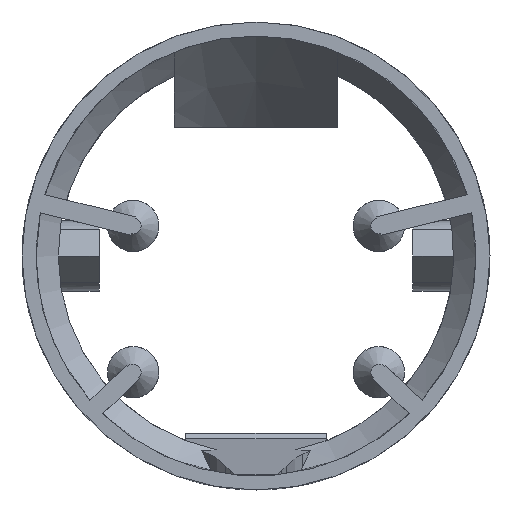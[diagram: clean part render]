
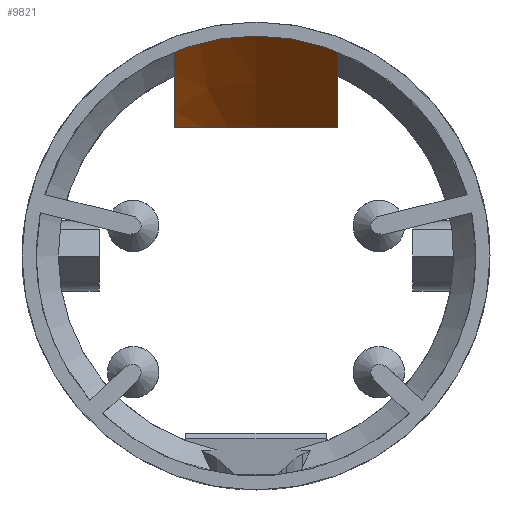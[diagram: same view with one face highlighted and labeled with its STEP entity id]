
A CAD part, left-side view. The second image highlights one B-rep face of the part: STEP entity #9821.
In plain terms, the highlighted conical face has half-angle 40 degrees and reference radius 18.8 mm.
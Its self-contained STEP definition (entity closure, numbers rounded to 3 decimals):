
#1301 = CYLINDRICAL_SURFACE('',#1302,18.8);
#1302 = AXIS2_PLACEMENT_3D('',#1303,#1304,#1305);
#1303 = CARTESIAN_POINT('',(29.,0.,0.));
#1304 = DIRECTION('',(1.,0.,0.));
#1305 = DIRECTION('',(-0.,0.,1.));
#4364 = VERTEX_POINT('',#4365);
#4365 = CARTESIAN_POINT('',(38.204,0.,18.8));
#4386 = EDGE_CURVE('',#4387,#4364,#4389,.T.);
#4387 = VERTEX_POINT('',#4388);
#4388 = CARTESIAN_POINT('',(38.204,7.,17.448));
#4389 = SURFACE_CURVE('',#4390,(#4395,#4402),.PCURVE_S1.);
#4390 = CIRCLE('',#4391,18.8);
#4391 = AXIS2_PLACEMENT_3D('',#4392,#4393,#4394);
#4392 = CARTESIAN_POINT('',(38.204,0.,0.));
#4393 = DIRECTION('',(1.,0.,0.));
#4394 = DIRECTION('',(-0.,1.,0.));
#4395 = PCURVE('',#1301,#4396);
#4396 = DEFINITIONAL_REPRESENTATION('',(#4397),#4401);
#4397 = LINE('',#4398,#4399);
#4398 = CARTESIAN_POINT('',(4.712,9.204));
#4399 = VECTOR('',#4400,1.);
#4400 = DIRECTION('',(1.,0.));
#4401 = ( GEOMETRIC_REPRESENTATION_CONTEXT(2) 
PARAMETRIC_REPRESENTATION_CONTEXT() REPRESENTATION_CONTEXT('2D SPACE',''
  ) );
#4402 = PCURVE('',#4403,#4408);
#4403 = CONICAL_SURFACE('',#4404,18.8,0.698);
#4404 = AXIS2_PLACEMENT_3D('',#4405,#4406,#4407);
#4405 = CARTESIAN_POINT('',(38.204,0.,0.));
#4406 = DIRECTION('',(-1.,-0.,-0.));
#4407 = DIRECTION('',(-0.,1.,0.));
#4408 = DEFINITIONAL_REPRESENTATION('',(#4409),#4413);
#4409 = LINE('',#4410,#4411);
#4410 = CARTESIAN_POINT('',(-0.,-0.));
#4411 = VECTOR('',#4412,1.);
#4412 = DIRECTION('',(-1.,-0.));
#4413 = ( GEOMETRIC_REPRESENTATION_CONTEXT(2) 
PARAMETRIC_REPRESENTATION_CONTEXT() REPRESENTATION_CONTEXT('2D SPACE',''
  ) );
#4430 = PLANE('',#4431);
#4431 = AXIS2_PLACEMENT_3D('',#4432,#4433,#4434);
#4432 = CARTESIAN_POINT('',(37.204,7.,11.));
#4433 = DIRECTION('',(-0.,1.,0.));
#4434 = DIRECTION('',(0.,0.,1.));
#5097 = VERTEX_POINT('',#5098);
#5098 = CARTESIAN_POINT('',(38.204,-7.,17.448));
#5111 = PLANE('',#5112);
#5112 = AXIS2_PLACEMENT_3D('',#5113,#5114,#5115);
#5113 = CARTESIAN_POINT('',(37.204,-7.,11.));
#5114 = DIRECTION('',(-0.,1.,0.));
#5115 = DIRECTION('',(0.,0.,1.));
#5122 = EDGE_CURVE('',#4364,#5097,#5123,.T.);
#5123 = SURFACE_CURVE('',#5124,(#5129,#5136),.PCURVE_S1.);
#5124 = CIRCLE('',#5125,18.8);
#5125 = AXIS2_PLACEMENT_3D('',#5126,#5127,#5128);
#5126 = CARTESIAN_POINT('',(38.204,0.,0.));
#5127 = DIRECTION('',(1.,0.,0.));
#5128 = DIRECTION('',(-0.,1.,0.));
#5129 = PCURVE('',#1301,#5130);
#5130 = DEFINITIONAL_REPRESENTATION('',(#5131),#5135);
#5131 = LINE('',#5132,#5133);
#5132 = CARTESIAN_POINT('',(-1.571,9.204));
#5133 = VECTOR('',#5134,1.);
#5134 = DIRECTION('',(1.,0.));
#5135 = ( GEOMETRIC_REPRESENTATION_CONTEXT(2) 
PARAMETRIC_REPRESENTATION_CONTEXT() REPRESENTATION_CONTEXT('2D SPACE',''
  ) );
#5136 = PCURVE('',#4403,#5137);
#5137 = DEFINITIONAL_REPRESENTATION('',(#5138),#5142);
#5138 = LINE('',#5139,#5140);
#5139 = CARTESIAN_POINT('',(-0.,-0.));
#5140 = VECTOR('',#5141,1.);
#5141 = DIRECTION('',(-1.,-0.));
#5142 = ( GEOMETRIC_REPRESENTATION_CONTEXT(2) 
PARAMETRIC_REPRESENTATION_CONTEXT() REPRESENTATION_CONTEXT('2D SPACE',''
  ) );
#5164 = VERTEX_POINT('',#5165);
#5165 = CARTESIAN_POINT('',(45.071,-7.,11.));
#5181 = PLANE('',#5182);
#5182 = AXIS2_PLACEMENT_3D('',#5183,#5184,#5185);
#5183 = CARTESIAN_POINT('',(37.204,-7.,11.));
#5184 = DIRECTION('',(0.,0.,1.));
#5185 = DIRECTION('',(1.,0.,-0.));
#5193 = EDGE_CURVE('',#5164,#5097,#5194,.T.);
#5194 = SURFACE_CURVE('',#5195,(#5200,#5207),.PCURVE_S1.);
#5195 = HYPERBOLA('',#5196,8.342,7.);
#5196 = AXIS2_PLACEMENT_3D('',#5197,#5198,#5199);
#5197 = CARTESIAN_POINT('',(60.609,-7.,0.));
#5198 = DIRECTION('',(0.,1.,0.));
#5199 = DIRECTION('',(-1.,0.,-0.));
#5200 = PCURVE('',#5111,#5201);
#5201 = DEFINITIONAL_REPRESENTATION('',(#5202),#5206);
#5202 = ( BOUNDED_CURVE() B_SPLINE_CURVE(2,(#5203,#5204,#5205),
.UNSPECIFIED.,.F.,.F.) B_SPLINE_CURVE_WITH_KNOTS((3,3),(1.154,
1.644),.PIECEWISE_BEZIER_KNOTS.) CURVE() 
GEOMETRIC_REPRESENTATION_ITEM() RATIONAL_B_SPLINE_CURVE((1.,
1.03,1.)) REPRESENTATION_ITEM('') );
#5203 = CARTESIAN_POINT('',(-1.,8.858));
#5204 = CARTESIAN_POINT('',(1.932,5.995));
#5205 = CARTESIAN_POINT('',(6.448,1.));
#5206 = ( GEOMETRIC_REPRESENTATION_CONTEXT(2) 
PARAMETRIC_REPRESENTATION_CONTEXT() REPRESENTATION_CONTEXT('2D SPACE',''
  ) );
#5207 = PCURVE('',#4403,#5208);
#5208 = DEFINITIONAL_REPRESENTATION('',(#5209),#5217);
#5209 = B_SPLINE_CURVE_WITH_KNOTS('',6,(#5210,#5211,#5212,#5213,#5214,
    #5215,#5216),.UNSPECIFIED.,.F.,.F.,(7,7),(1.154,
    1.644),.PIECEWISE_BEZIER_KNOTS.);
#5210 = CARTESIAN_POINT('',(-2.182,-7.858));
#5211 = CARTESIAN_POINT('',(-2.135,-6.884));
#5212 = CARTESIAN_POINT('',(-2.092,-5.795));
#5213 = CARTESIAN_POINT('',(-2.052,-4.577));
#5214 = CARTESIAN_POINT('',(-2.016,-3.217));
#5215 = CARTESIAN_POINT('',(-1.983,-1.698));
#5216 = CARTESIAN_POINT('',(-1.952,0.));
#5217 = ( GEOMETRIC_REPRESENTATION_CONTEXT(2) 
PARAMETRIC_REPRESENTATION_CONTEXT() REPRESENTATION_CONTEXT('2D SPACE',''
  ) );
#9398 = VERTEX_POINT('',#9399);
#9399 = CARTESIAN_POINT('',(45.071,7.,11.));
#9420 = EDGE_CURVE('',#9398,#9421,#9423,.T.);
#9421 = VERTEX_POINT('',#9422);
#9422 = CARTESIAN_POINT('',(47.5,0.,11.));
#9423 = SURFACE_CURVE('',#9424,(#9429,#9436),.PCURVE_S1.);
#9424 = HYPERBOLA('',#9425,13.109,11.);
#9425 = AXIS2_PLACEMENT_3D('',#9426,#9427,#9428);
#9426 = CARTESIAN_POINT('',(60.609,0.,11.));
#9427 = DIRECTION('',(0.,0.,1.));
#9428 = DIRECTION('',(-1.,0.,0.));
#9429 = PCURVE('',#5181,#9430);
#9430 = DEFINITIONAL_REPRESENTATION('',(#9431),#9435);
#9431 = ( BOUNDED_CURVE() B_SPLINE_CURVE(2,(#9432,#9433,#9434),
.UNSPECIFIED.,.F.,.F.) B_SPLINE_CURVE_WITH_KNOTS((3,3),(-0.704,
0.),.PIECEWISE_BEZIER_KNOTS.) CURVE() 
GEOMETRIC_REPRESENTATION_ITEM() RATIONAL_B_SPLINE_CURVE((1.,
1.063,1.)) REPRESENTATION_ITEM('') );
#9432 = CARTESIAN_POINT('',(6.91,15.4));
#9433 = CARTESIAN_POINT('',(10.296,10.72));
#9434 = CARTESIAN_POINT('',(10.296,7.));
#9435 = ( GEOMETRIC_REPRESENTATION_CONTEXT(2) 
PARAMETRIC_REPRESENTATION_CONTEXT() REPRESENTATION_CONTEXT('2D SPACE',''
  ) );
#9436 = PCURVE('',#4403,#9437);
#9437 = DEFINITIONAL_REPRESENTATION('',(#9438),#9446);
#9438 = B_SPLINE_CURVE_WITH_KNOTS('',6,(#9439,#9440,#9441,#9442,#9443,
    #9444,#9445),.UNSPECIFIED.,.F.,.F.,(7,7),(-0.704,
    0.),.PIECEWISE_BEZIER_KNOTS.);
#9439 = CARTESIAN_POINT('',(-0.919,-5.91));
#9440 = CARTESIAN_POINT('',(-1.012,-7.085));
#9441 = CARTESIAN_POINT('',(-1.113,-7.987));
#9442 = CARTESIAN_POINT('',(-1.222,-8.646));
#9443 = CARTESIAN_POINT('',(-1.336,-9.079));
#9444 = CARTESIAN_POINT('',(-1.453,-9.296));
#9445 = CARTESIAN_POINT('',(-1.571,-9.296));
#9446 = ( GEOMETRIC_REPRESENTATION_CONTEXT(2) 
PARAMETRIC_REPRESENTATION_CONTEXT() REPRESENTATION_CONTEXT('2D SPACE',''
  ) );
#9448 = EDGE_CURVE('',#9421,#5164,#9449,.T.);
#9449 = SURFACE_CURVE('',#9450,(#9455,#9462),.PCURVE_S1.);
#9450 = HYPERBOLA('',#9451,13.109,11.);
#9451 = AXIS2_PLACEMENT_3D('',#9452,#9453,#9454);
#9452 = CARTESIAN_POINT('',(60.609,0.,11.));
#9453 = DIRECTION('',(0.,0.,1.));
#9454 = DIRECTION('',(-1.,0.,0.));
#9455 = PCURVE('',#5181,#9456);
#9456 = DEFINITIONAL_REPRESENTATION('',(#9457),#9461);
#9457 = ( BOUNDED_CURVE() B_SPLINE_CURVE(2,(#9458,#9459,#9460),
.UNSPECIFIED.,.F.,.F.) B_SPLINE_CURVE_WITH_KNOTS((3,3),(
0.,0.704),.PIECEWISE_BEZIER_KNOTS.) CURVE() 
GEOMETRIC_REPRESENTATION_ITEM() RATIONAL_B_SPLINE_CURVE((1.,
1.063,1.)) REPRESENTATION_ITEM('') );
#9458 = CARTESIAN_POINT('',(10.296,7.));
#9459 = CARTESIAN_POINT('',(10.296,3.28));
#9460 = CARTESIAN_POINT('',(6.91,-1.4));
#9461 = ( GEOMETRIC_REPRESENTATION_CONTEXT(2) 
PARAMETRIC_REPRESENTATION_CONTEXT() REPRESENTATION_CONTEXT('2D SPACE',''
  ) );
#9462 = PCURVE('',#4403,#9463);
#9463 = DEFINITIONAL_REPRESENTATION('',(#9464),#9472);
#9464 = B_SPLINE_CURVE_WITH_KNOTS('',6,(#9465,#9466,#9467,#9468,#9469,
    #9470,#9471),.UNSPECIFIED.,.F.,.F.,(7,7),(0.,
    0.704),.PIECEWISE_BEZIER_KNOTS.);
#9465 = CARTESIAN_POINT('',(-1.571,-9.296));
#9466 = CARTESIAN_POINT('',(-1.688,-9.296));
#9467 = CARTESIAN_POINT('',(-1.805,-9.079));
#9468 = CARTESIAN_POINT('',(-1.92,-8.646));
#9469 = CARTESIAN_POINT('',(-2.028,-7.987));
#9470 = CARTESIAN_POINT('',(-2.13,-7.085));
#9471 = CARTESIAN_POINT('',(-2.223,-5.91));
#9472 = ( GEOMETRIC_REPRESENTATION_CONTEXT(2) 
PARAMETRIC_REPRESENTATION_CONTEXT() REPRESENTATION_CONTEXT('2D SPACE',''
  ) );
#9792 = EDGE_CURVE('',#9398,#4387,#9793,.T.);
#9793 = SURFACE_CURVE('',#9794,(#9799,#9806),.PCURVE_S1.);
#9794 = HYPERBOLA('',#9795,8.342,7.);
#9795 = AXIS2_PLACEMENT_3D('',#9796,#9797,#9798);
#9796 = CARTESIAN_POINT('',(60.609,7.,0.));
#9797 = DIRECTION('',(0.,1.,0.));
#9798 = DIRECTION('',(-1.,0.,-0.));
#9799 = PCURVE('',#4430,#9800);
#9800 = DEFINITIONAL_REPRESENTATION('',(#9801),#9805);
#9801 = ( BOUNDED_CURVE() B_SPLINE_CURVE(2,(#9802,#9803,#9804),
.UNSPECIFIED.,.F.,.F.) B_SPLINE_CURVE_WITH_KNOTS((3,3),(1.154,
1.644),.PIECEWISE_BEZIER_KNOTS.) CURVE() 
GEOMETRIC_REPRESENTATION_ITEM() RATIONAL_B_SPLINE_CURVE((1.,
1.03,1.)) REPRESENTATION_ITEM('') );
#9802 = CARTESIAN_POINT('',(-1.,8.858));
#9803 = CARTESIAN_POINT('',(1.932,5.995));
#9804 = CARTESIAN_POINT('',(6.448,1.));
#9805 = ( GEOMETRIC_REPRESENTATION_CONTEXT(2) 
PARAMETRIC_REPRESENTATION_CONTEXT() REPRESENTATION_CONTEXT('2D SPACE',''
  ) );
#9806 = PCURVE('',#4403,#9807);
#9807 = DEFINITIONAL_REPRESENTATION('',(#9808),#9816);
#9808 = B_SPLINE_CURVE_WITH_KNOTS('',6,(#9809,#9810,#9811,#9812,#9813,
    #9814,#9815),.UNSPECIFIED.,.F.,.F.,(7,7),(1.154,
    1.644),.PIECEWISE_BEZIER_KNOTS.);
#9809 = CARTESIAN_POINT('',(-0.96,-7.858));
#9810 = CARTESIAN_POINT('',(-1.007,-6.884));
#9811 = CARTESIAN_POINT('',(-1.05,-5.795));
#9812 = CARTESIAN_POINT('',(-1.089,-4.577));
#9813 = CARTESIAN_POINT('',(-1.126,-3.217));
#9814 = CARTESIAN_POINT('',(-1.159,-1.698));
#9815 = CARTESIAN_POINT('',(-1.189,0.));
#9816 = ( GEOMETRIC_REPRESENTATION_CONTEXT(2) 
PARAMETRIC_REPRESENTATION_CONTEXT() REPRESENTATION_CONTEXT('2D SPACE',''
  ) );
#9821 = ADVANCED_FACE('',(#9822),#4403,.F.);
#9822 = FACE_BOUND('',#9823,.F.);
#9823 = EDGE_LOOP('',(#9824,#9825,#9826,#9827,#9828,#9829));
#9824 = ORIENTED_EDGE('',*,*,#9792,.T.);
#9825 = ORIENTED_EDGE('',*,*,#4386,.T.);
#9826 = ORIENTED_EDGE('',*,*,#5122,.T.);
#9827 = ORIENTED_EDGE('',*,*,#5193,.F.);
#9828 = ORIENTED_EDGE('',*,*,#9448,.F.);
#9829 = ORIENTED_EDGE('',*,*,#9420,.F.);
